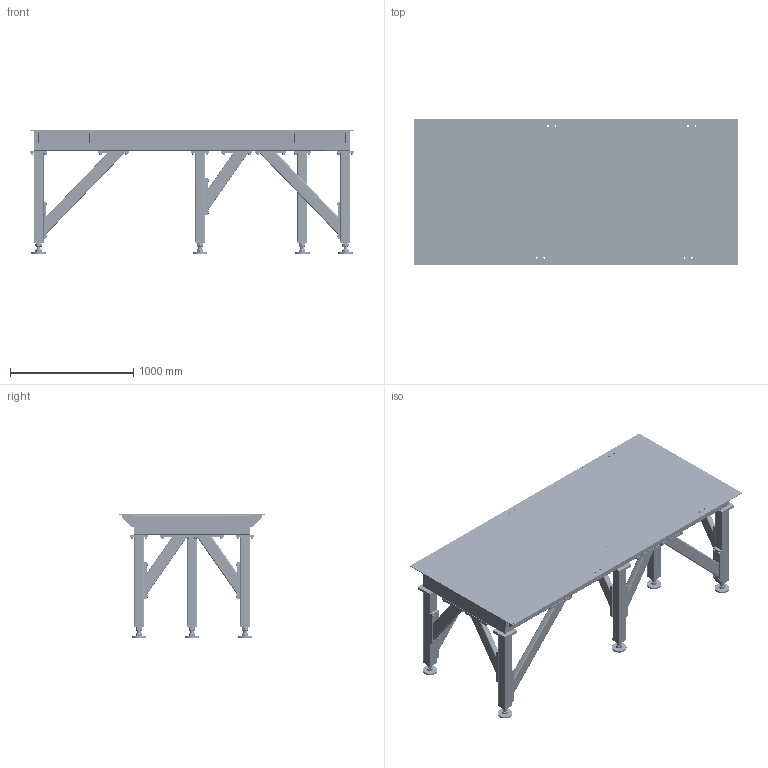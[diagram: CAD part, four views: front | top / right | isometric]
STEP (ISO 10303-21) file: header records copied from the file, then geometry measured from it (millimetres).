
FILE_DESCRIPTION (( 'STEP AP214' ), '1' );
FILE_NAME ('FAU-GRD6&7-01 CHASSIS.STEP', '2025-04-07T14:37:33', ( '' ), ( '' ), 'SwSTEP 2.0', 'SolidWorks 2017', '' );
FILE_SCHEMA (( 'AUTOMOTIVE_DESIGN' ));
Length unit declared in the file: millimetre
Products named in the file (24): Z-Washer_WASHER Z 10; Z-Washer_WASHER M 10; Z-screw_din_933-m30x120; FAU-GRD6&7-06 C_00<Brut d''usinage>; FAU-GRD6&7-01 CHASSIS; FAU-GRD6&7-06 C_0; Z-ECROU HM30_‚crou h M30; FAU-GRD6&7-06 C_2; FAU-GRD6&7-06 C_2<Brut d''usinage>; FAU-GRD6&7-03 TOLE inox; FAU-GRD6&7-06 C_3; FAU-GRD6&7-04 B_PETIT; FAU-GRD6&7-04 A_default-lisse; Z-Screw_H_SCREW H M10x25-25; FAU-GRD6&7-03 TOLE ACIER; FAU-GRD6&7-05; FAU-GRD6&7-06 C_3 ok<Brut d''usinage>; FAU-GRD6&7-04 CV1_CV1; FAU-GRD6&7-06 C_4; FAU-GRD6&7-06 C_0<Brut d''usinage>; FAU-GRD6&7-02_D‚faut<Brut d''usinage>; FAU-GRD6&7-04 CV1_2; FAU-GRD6&7-04 A_petit-lisse; FAU-GRD6&7-04 B_GRAND
Assembly tree (244 placements, depth 3):
  FAU-GRD6&7-01 CHASSIS
    FAU-GRD6&7-02_D‚faut<Brut d''usinage>
    FAU-GRD6&7-06 C_4  x2
      FAU-GRD6&7-06 C_0<Brut d''usinage>
      FAU-GRD6&7-05
      Z-ECROU HM30_‚crou h M30
      Z-screw_din_933-m30x120
      Z-Washer_WASHER Z 10
      Z-Screw_H_SCREW H M10x25-25
      Z-Washer_WASHER M 10
    FAU-GRD6&7-06 C_2  x2
      FAU-GRD6&7-06 C_2<Brut d''usinage>
      FAU-GRD6&7-05
      Z-ECROU HM30_‚crou h M30
      Z-screw_din_933-m30x120
      Z-Washer_WASHER Z 10
      Z-Screw_H_SCREW H M10x25-25
      Z-Washer_WASHER M 10
    FAU-GRD6&7-06 C_3  x2
      FAU-GRD6&7-06 C_3 ok<Brut d''usinage>
      FAU-GRD6&7-05
      Z-ECROU HM30_‚crou h M30
      Z-screw_din_933-m30x120
      Z-Washer_WASHER Z 10
      Z-Screw_H_SCREW H M10x25-25
      Z-Washer_WASHER M 10
    FAU-GRD6&7-04 CV1_2  x8
      FAU-GRD6&7-04 A_default-lisse
      FAU-GRD6&7-04 B_PETIT
      FAU-GRD6&7-04 A_petit-lisse
    FAU-GRD6&7-04 CV1_CV1  x4
      FAU-GRD6&7-04 A_default-lisse
      FAU-GRD6&7-04 B_GRAND
      FAU-GRD6&7-04 A_petit-lisse
    Z-Screw_H_SCREW H M10x25-25  x76
    Z-Washer_WASHER Z 10  x76
    FAU-GRD6&7-03 TOLE ACIER
    FAU-GRD6&7-03 TOLE inox
    FAU-GRD6&7-06 C_0
      FAU-GRD6&7-06 C_00<Brut d''usinage>
      FAU-GRD6&7-05
      Z-ECROU HM30_‚crou h M30
      Z-screw_din_933-m30x120
Bounding box: 2630 x 1180 x 1000 mm (x, y, z)
Volume: 68646184.9 mm3; surface area: 36653633.4 mm2
Topology: 398 solids, 398 shells, 5169 faces, 12159 edges, 7939 vertices
Faces by surface type: plane 2485, cylinder 1902, cone 768, bspline 14
Entity records: 58955 total; most frequent: CARTESIAN_POINT 9260, DIRECTION 8964, ORIENTED_EDGE 7962, EDGE_CURVE 3981, AXIS2_PLACEMENT_3D 3329, VERTEX_POINT 2623, VECTOR 2306, LINE 2306
